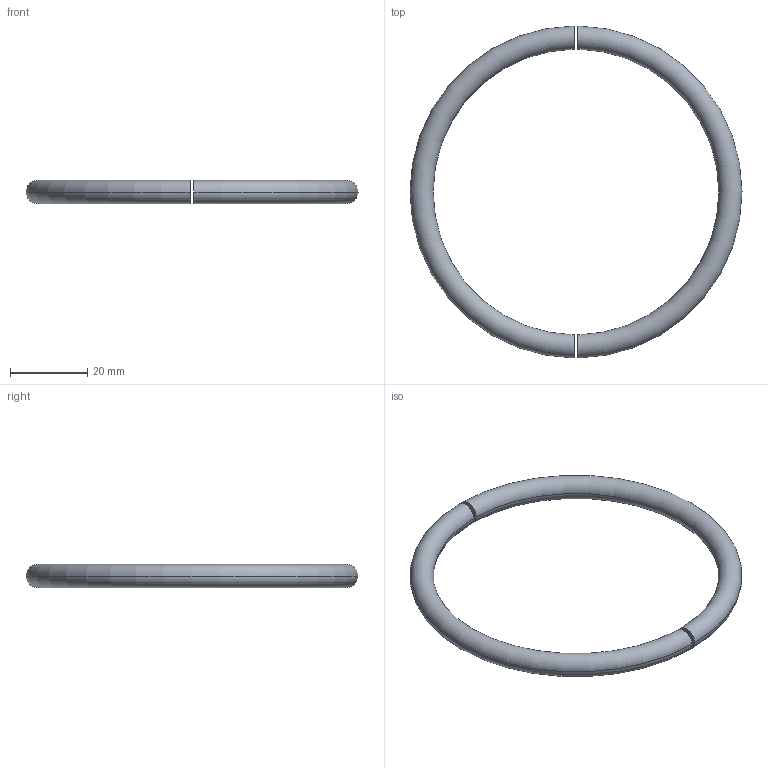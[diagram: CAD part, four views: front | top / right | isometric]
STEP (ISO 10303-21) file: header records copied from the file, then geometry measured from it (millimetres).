
FILE_DESCRIPTION(('CATIA V5 STEP Exchange','CAx-IF Rec.Pracs.--- Model Styling and Organization---1.4--- 2014-01-23','CAx-IF Rec.Pracs.---3D Tessellated Data Validation Properties---0.5---2014-09-14'),'2;1');
FILE_NAME('\\GSBFILE\data\URETIM\3D DATALAR\2016\KALIP ELEMANLARI\A KODLARI\A102-01\A102-01-080\A102-01-080.stp','2019-08-28T11:15:02+00:00',('none'),('none'),'CATIA Version 5-6 Release 2016 SP6 HF8','CATIA V5 STEP AP242','none');
FILE_SCHEMA(('AP242_MANAGED_MODEL_BASED_3D_ENGINEERING_MIM_LF {1 0 10303 442 1 1 4}'));
Length unit declared in the file: millimetre
Products named in the file (1): A102-01-080
Bounding box: 86 x 85.99 x 5.99 mm (x, y, z)
Volume: 7049.6 mm3; surface area: 4812.8 mm2
Topology: 2 solids, 2 shells, 8 faces, 12 edges, 8 vertices
Faces by surface type: torus 4, plane 4
Entity records: 243 total; most frequent: CARTESIAN_POINT 112, ORIENTED_EDGE 24, EDGE_CURVE 12, DIRECTION 10, AXIS2_PLACEMENT_3D 8, EDGE_LOOP 8, VERTEX_POINT 8, ADVANCED_FACE 8
